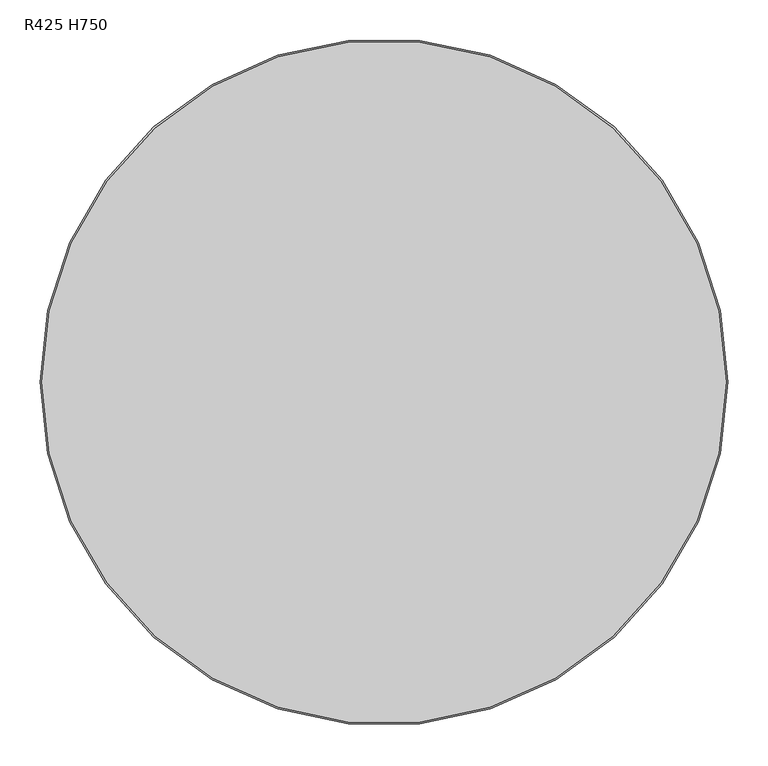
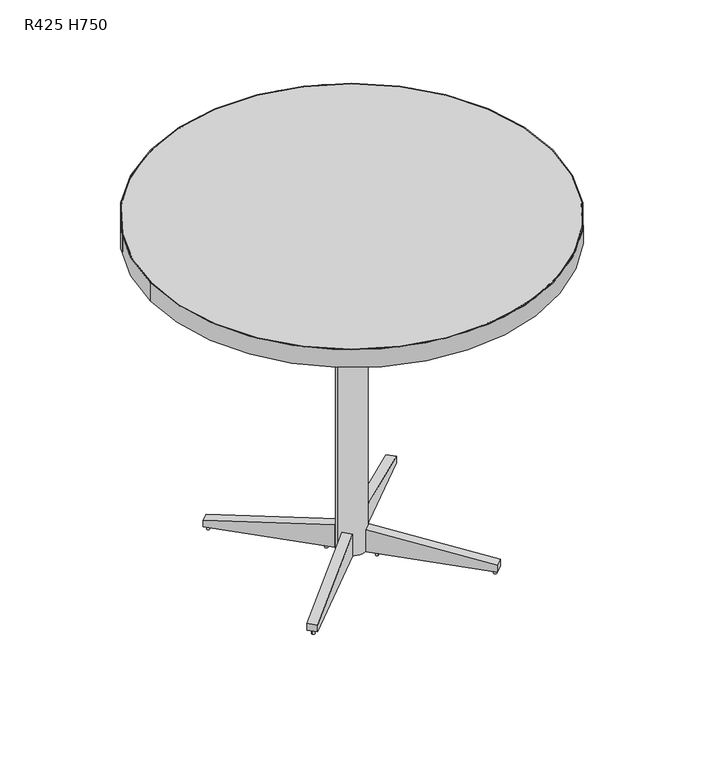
"""IFC4 building model written with IfcOpenShell, lengths in millimetres: furniture geometry, TN.RES.Table03 : R425 H750."""

import ifcopenshell
import ifcopenshell.guid

model = None  # the IFC model being written
_history = None  # IfcOwnerHistory: only IFC2X3 demands one
_inside = {}  # id of a spatial element -> (the spatial element, [elements in it])
_under = {}  # id of a project, library or spatial element -> (it, [spatial elements below it])
_declared = {}  # id of a project -> (the project, [libraries it declares])
_typed = {}  # id of a type object -> (the type object, [elements of that type])
_made_of = {}  # id of a material, layer set ... -> (it, [elements and type objects made of it])


def new_model(schema):
    """Start an empty IFC model of exactly this schema.

    Asked for "IFC4X3", IfcOpenShell would pick the latest addendum, in which some entities
    have other attributes; the version numbers below select the first issue.
    IFC2X3 requires an IfcOwnerHistory on every rooted entity: one is made here for all.
    """
    global model, _history
    if schema == "IFC4X3":
        model = ifcopenshell.file(schema_version=(4, 3, 0, 0))
    else:
        model = ifcopenshell.file(schema=schema)
    _inside.clear()
    _under.clear()
    _declared.clear()
    _typed.clear()
    _made_of.clear()
    _history = None
    if model.schema == "IFC2X3":
        org = make("IfcOrganization", Name="unknown")
        user = make(
            "IfcPersonAndOrganization",
            ThePerson=make("IfcPerson", FamilyName="unknown"),
            TheOrganization=org,
        )
        app = make(
            "IfcApplication",
            ApplicationDeveloper=org,
            Version="unknown",
            ApplicationFullName="unknown",
            ApplicationIdentifier="unknown",
        )
        _history = make(
            "IfcOwnerHistory",
            OwningUser=user,
            OwningApplication=app,
            ChangeAction="ADDED",
            CreationDate=0,
        )
    return model


def make(cls, **values):
    """One entity of the class cls with the attributes given. An attribute that is None is left unset."""
    return model.create_entity(
        cls, **{name: value for name, value in values.items() if value is not None}
    )


def rooted(cls, **values):
    """An entity with a GlobalId (a new one), such as an element, a storey or a relation."""
    return make(cls, GlobalId=ifcopenshell.guid.new(), OwnerHistory=_history, **values)


def si_unit(unit_type, name, prefix=None):
    """IfcSIUnit, for example si_unit("LENGTHUNIT", "METRE", prefix="MILLI")."""
    return make("IfcSIUnit", UnitType=unit_type, Prefix=prefix, Name=name)


def assignment(units):
    """IfcUnitAssignment: the units of a project."""
    return None if units is None else make("IfcUnitAssignment", Units=units)


def point(xyz):
    """IfcCartesianPoint."""
    return None if xyz is None else make("IfcCartesianPoint", Coordinates=xyz)


def direction(xyz):
    """IfcDirection."""
    return None if xyz is None else make("IfcDirection", DirectionRatios=xyz)


def frame(location, z_axis=None, x_axis=None):
    """IfcAxis2Placement3D, a coordinate frame: its origin and axes. An axis left out is left unset."""
    return make(
        "IfcAxis2Placement3D",
        Location=point(location),
        Axis=direction(z_axis),
        RefDirection=direction(x_axis),
    )


def frame_2d(location, x_axis=None):
    """IfcAxis2Placement2D, a coordinate frame in the plane: its origin and x axis."""
    return make(
        "IfcAxis2Placement2D", Location=point(location), RefDirection=direction(x_axis)
    )


def origin():
    """The frame at (0, 0, 0) with its axes left unset."""
    return frame((0.0, 0.0, 0.0))


def origin_with_axes():
    """The frame at (0, 0, 0) with the z axis (0, 0, 1) and the x axis (1, 0, 0) written out."""
    return frame((0.0, 0.0, 0.0), z_axis=(0.0, 0.0, 1.0), x_axis=(1.0, 0.0, 0.0))


def origin_2d():
    """The frame at (0, 0) in the plane with its x axis left unset."""
    return frame_2d((0.0, 0.0))


def place(relative_to, where):
    """IfcLocalPlacement: puts the frame where relative to a parent placement (None: the world)."""
    return make(
        "IfcLocalPlacement", PlacementRelTo=relative_to, RelativePlacement=where
    )


def context(
    kind, dimensions, precision=None, world=None, true_north=None, identifier=None
):
    """IfcGeometricRepresentationContext, for example the 3D "Model" context."""
    return make(
        "IfcGeometricRepresentationContext",
        ContextIdentifier=identifier,
        ContextType=kind,
        CoordinateSpaceDimension=dimensions,
        Precision=precision,
        WorldCoordinateSystem=world,
        TrueNorth=true_north,
    )


def project(units=None, contexts=None):
    """IfcProject with its units and contexts."""
    return rooted(
        "IfcProject",
        Name="project",
        RepresentationContexts=contexts,
        UnitsInContext=assignment(units),
    )


def spatial(cls, under=None, at=None, **own):
    """A site, building, storey or space (cls), placed at a placement, below another one or the project."""
    s = rooted(cls, ObjectPlacement=at, **own)
    if under is not None:
        _under.setdefault(under.id(), (under, []))[1].append(s)
    return s


def polyline(points):
    """IfcPolyline through the points."""
    return make("IfcPolyline", Points=[point(p) for p in points])


def circle_curve(where, radius):
    """IfcCircle in the frame where."""
    return make("IfcCircle", Position=where, Radius=radius)


def trimmed(basis, trim1, trim2, sense, master):
    """IfcTrimmedCurve: the piece of a basis curve between two trims."""
    return make(
        "IfcTrimmedCurve",
        BasisCurve=basis,
        Trim1=trim1,
        Trim2=trim2,
        SenseAgreement=sense,
        MasterRepresentation=master,
    )


def segment(curve, same_sense, transition):
    """IfcCompositeCurveSegment."""
    return make(
        "IfcCompositeCurveSegment",
        Transition=transition,
        SameSense=same_sense,
        ParentCurve=curve,
    )


def composite_curve(segments, self_intersect=None):
    """IfcCompositeCurve: segments joined end to end."""
    return make("IfcCompositeCurve", Segments=segments, SelfIntersect=self_intersect)


def outline(outer, holes=None, kind="AREA"):
    """IfcArbitraryClosedProfileDef: a profile drawn as a closed curve; with holes, ...WithVoids."""
    if holes is None:
        return make("IfcArbitraryClosedProfileDef", ProfileType=kind, OuterCurve=outer)
    return make(
        "IfcArbitraryProfileDefWithVoids",
        ProfileType=kind,
        OuterCurve=outer,
        InnerCurves=holes,
    )


def extrude(swept, where, along, depth):
    """IfcExtrudedAreaSolid: the profile swept, set in the frame where, extruded along a direction by depth."""
    return make(
        "IfcExtrudedAreaSolid",
        SweptArea=swept,
        Position=where,
        ExtrudedDirection=direction(along),
        Depth=depth,
    )


def shape(context_of_items, identifier, shape_type, items):
    """IfcShapeRepresentation: the items that make up one representation, for example the "Body"."""
    return make(
        "IfcShapeRepresentation",
        ContextOfItems=context_of_items,
        RepresentationIdentifier=identifier,
        RepresentationType=shape_type,
        Items=items,
    )


def source(mapping_origin, context_of_items, identifier, shape_type, items):
    """IfcRepresentationMap: a shape defined once, which mapped items show again and again."""
    return make(
        "IfcRepresentationMap",
        MappingOrigin=mapping_origin,
        MappedRepresentation=shape(context_of_items, identifier, shape_type, items),
    )


def transform(
    local_origin,
    x_axis=None,
    y_axis=None,
    z_axis=None,
    scale=None,
    scale2=None,
    scale3=None,
    uniform=True,
):
    """IfcCartesianTransformationOperator3D, or its non-uniform kind. x_axis, y_axis, z_axis: its Axis1, 2, 3."""
    if uniform:
        return make(
            "IfcCartesianTransformationOperator3D",
            Axis1=direction(x_axis),
            Axis2=direction(y_axis),
            LocalOrigin=point(local_origin),
            Scale=scale,
            Axis3=direction(z_axis),
        )
    return make(
        "IfcCartesianTransformationOperator3DnonUniform",
        Axis1=direction(x_axis),
        Axis2=direction(y_axis),
        LocalOrigin=point(local_origin),
        Scale=scale,
        Axis3=direction(z_axis),
        Scale2=scale2,
        Scale3=scale3,
    )


def mapped(mapping_source, mapping_target):
    """IfcMappedItem: shows the shape of a source again, moved by a transform."""
    return make(
        "IfcMappedItem", MappingSource=mapping_source, MappingTarget=mapping_target
    )


def made_of(thing, what):
    """Note that an element or type object is made of a material, layer set ...; save() writes the relation."""
    if what is not None:
        _made_of.setdefault(what.id(), (what, []))[1].append(thing)
    return thing


def element(
    cls,
    number,
    at=None,
    inside=None,
    cuts=None,
    type_object=None,
    material=None,
    context=None,
    identifier="Body",
    shape_type=None,
    held_by="IfcProductDefinitionShape",
    body=None,
    shapes=None,
    **own,
):
    """One element of the class cls, such as IfcWall. Its Tag is "e" and its number.

    at: its placement. inside: the storey or other place that contains it. cuts: it is an
    opening in that element (IfcRelVoidsElement). A single representation is given by context,
    identifier, shape_type and body (its items); several are given by shapes. held_by: the class
    of the entity that holds the representations. save() writes the other relations.
    """
    e = rooted(cls, Tag="e%d" % number, ObjectPlacement=at, **own)
    if body is not None:
        shapes = [shape(context, identifier, shape_type, body)]
    if shapes is not None:
        e.Representation = make(held_by, Representations=shapes)
    if inside is not None:
        _inside.setdefault(inside.id(), (inside, []))[1].append(e)
    if cuts is not None:
        rooted(
            "IfcRelVoidsElement", RelatingBuildingElement=cuts, RelatedOpeningElement=e
        )
    if type_object is not None:
        _typed.setdefault(type_object.id(), (type_object, []))[1].append(e)
    return made_of(e, material)


def aggregate(whole, parts):
    """IfcRelAggregates: a whole, such as a stair, and the parts it consists of."""
    return rooted("IfcRelAggregates", RelatingObject=whole, RelatedObjects=parts)


def save(model, path):
    """Write the relations noted so far, then the file.

    IfcRelAggregates (storeys below a building ...), IfcRelContainedInSpatialStructure (elements
    in a storey), IfcRelDefinesByType, IfcRelAssociatesMaterial and IfcRelDeclares: one each for
    every whole, place, type object, material and project.
    """
    for whole, parts in _under.values():
        aggregate(whole, parts)
    for where, things in _inside.values():
        rooted(
            "IfcRelContainedInSpatialStructure",
            RelatedElements=things,
            RelatingStructure=where,
        )
    for kind, things in _typed.values():
        rooted("IfcRelDefinesByType", RelatedObjects=things, RelatingType=kind)
    for what, things in _made_of.values():
        rooted("IfcRelAssociatesMaterial", RelatedObjects=things, RelatingMaterial=what)
    for by, libraries in _declared.values():
        rooted("IfcRelDeclares", RelatingContext=by, RelatedDefinitions=libraries)
    model.write(path)


def plane_surface(at):
    """IfcPlane: the flat surface through the origin of the frame at, square to its z axis."""
    return make("IfcPlane", Position=at)


def cylinder_surface(at, radius):
    """IfcCylindricalSurface: all points at the distance radius from the z axis of the frame at."""
    return make("IfcCylindricalSurface", Position=at, Radius=radius)


def advanced_brep(points, edges, surfaces, faces):
    """IfcAdvancedBrep: a solid bounded by faces that lie on surfaces and meet in shared edges.

    An edge is (start, end): straight between two places in points (the first is 0);
    or (start, end, curve); or (start, end, curve, False) where it runs against its curve.
    A face is (place in surfaces, loops), or (place, loops, False) where it looks against
    its surface's normal. A loop lists edges by number (the first is 1), with a minus sign
    where the edge is run from its end to its start. The first loop is the outer one.
    """
    corners = [point(p) for p in points]
    vertices = [make("IfcVertexPoint", VertexGeometry=c) for c in corners]
    made = []
    for start, end, *more in edges:
        made.append(
            make(
                "IfcEdgeCurve",
                EdgeStart=vertices[start],
                EdgeEnd=vertices[end],
                EdgeGeometry=more[0] if more else make("IfcPolyline", Points=[corners[start], corners[end]]),
                SameSense=more[1] if len(more) > 1 else True,
            )
        )
    hull = []
    for where, loops, *sense in faces:
        bounds = []
        for j, loop in enumerate(loops):
            ring = [make("IfcOrientedEdge", EdgeElement=made[abs(k) - 1], Orientation=k > 0) for k in loop]
            bounds.append(
                make(
                    "IfcFaceOuterBound" if j == 0 else "IfcFaceBound",
                    Bound=make("IfcEdgeLoop", EdgeList=ring),
                    Orientation=True,
                )
            )
        hull.append(make("IfcAdvancedFace", Bounds=bounds, FaceSurface=surfaces[where], SameSense=sense[0] if sense else True))
    return make("IfcAdvancedBrep", Outer=make("IfcClosedShell", CfsFaces=hull))


def r425_h750_a5844c7b(model_context):
    return source(origin(), model_context, "Body", "SolidModel", [
        extrude(outline(composite_curve([segment(trimmed(circle_curve(frame_2d((-193.2225314, 193.2225314)), 2.9948705), [point((-195.3402246, 195.3402246))], [point((-191.1048382, 191.1048382))], False, "CARTESIAN"), True, "CONTINUOUS"), segment(trimmed(circle_curve(frame_2d((-193.2225314, 193.2225314)), 2.9948705), [point((-191.1048382, 191.1048382))], [point((-195.3402246, 195.3402246))], False, "CARTESIAN"), True, "CONTINUOUS")], self_intersect=False)), origin_with_axes(), (0.0, 0.0, 1.0), 10.0),
        extrude(outline(composite_curve([segment(trimmed(circle_curve(frame_2d((-34.1235056, 34.1235056)), 2.9948705), [point((-36.2411988, 36.2411988))], [point((-32.0058124, 32.0058124))], False, "CARTESIAN"), True, "CONTINUOUS"), segment(trimmed(circle_curve(frame_2d((-34.1235056, 34.1235056)), 2.9948705), [point((-32.0058124, 32.0058124))], [point((-36.2411988, 36.2411988))], False, "CARTESIAN"), True, "CONTINUOUS")], self_intersect=False)), origin_with_axes(), (0.0, 0.0, 1.0), 10.0),
        extrude(outline(polyline([(0.0, 0.0), (252.4381112, 0.0), (254.5178289, -14.8551262), (6.9323922, -49.5170873), (0.0, 0.0)])), frame((-28.2842712, 14.1421356, 60.0), z_axis=(0.7071067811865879, 0.7071067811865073, 0.0), x_axis=(-0.700277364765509, 0.7002773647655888, -0.13864784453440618)), (0.0, 0.0, 1.0), 20.0),
        extrude(outline(composite_curve([segment(trimmed(circle_curve(frame_2d((193.2225314, 193.2225314)), 2.9948705), [point((191.1048382, 191.1048382))], [point((195.3402246, 195.3402246))], False, "CARTESIAN"), True, "CONTINUOUS"), segment(trimmed(circle_curve(frame_2d((193.2225314, 193.2225314)), 2.9948705), [point((195.3402246, 195.3402246))], [point((191.1048382, 191.1048382))], False, "CARTESIAN"), True, "CONTINUOUS")], self_intersect=False)), origin_with_axes(), (0.0, 0.0, 1.0), 10.0),
        extrude(outline(composite_curve([segment(trimmed(circle_curve(frame_2d((34.1235056, 34.1235056)), 2.9948705), [point((32.0058124, 32.0058124))], [point((36.2411988, 36.2411988))], False, "CARTESIAN"), True, "CONTINUOUS"), segment(trimmed(circle_curve(frame_2d((34.1235056, 34.1235056)), 2.9948705), [point((36.2411988, 36.2411988))], [point((32.0058124, 32.0058124))], False, "CARTESIAN"), True, "CONTINUOUS")], self_intersect=False)), origin_with_axes(), (0.0, 0.0, 1.0), 10.0),
        extrude(outline(polyline([(-60.0, 0.0), (-10.0, 0.0), (-10.0, -250.0), (-25.0, -250.0), (-60.0, 0.0)])), frame((28.2842712, 14.1421356, 0.0), z_axis=(-0.7071067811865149, 0.7071067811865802, 0.0), x_axis=(0.0, 0.0, -1.0)), (0.0, 0.0, 1.0), 20.0),
        extrude(outline(composite_curve([segment(trimmed(circle_curve(frame_2d((-193.2225314, -193.2225314)), 2.9948705), [point((-195.3402246, -195.3402246))], [point((-191.1048382, -191.1048382))], False, "CARTESIAN"), True, "CONTINUOUS"), segment(trimmed(circle_curve(frame_2d((-193.2225314, -193.2225314)), 2.9948705), [point((-191.1048382, -191.1048382))], [point((-195.3402246, -195.3402246))], False, "CARTESIAN"), True, "CONTINUOUS")], self_intersect=False)), origin_with_axes(), (0.0, 0.0, 1.0), 10.0),
        extrude(outline(composite_curve([segment(trimmed(circle_curve(frame_2d((-34.1235056, -34.1235056)), 2.9948705), [point((-36.2411988, -36.2411988))], [point((-32.0058124, -32.0058124))], False, "CARTESIAN"), True, "CONTINUOUS"), segment(trimmed(circle_curve(frame_2d((-34.1235056, -34.1235056)), 2.9948705), [point((-32.0058124, -32.0058124))], [point((-36.2411988, -36.2411988))], False, "CARTESIAN"), True, "CONTINUOUS")], self_intersect=False)), origin_with_axes(), (0.0, 0.0, 1.0), 10.0),
        extrude(outline(polyline([(0.0, 0.0), (252.4381112, 0.0), (254.5178289, -14.8551262), (6.9323922, -49.5170873), (0.0, 0.0)])), frame((-14.1421356, -28.2842712, 60.0), z_axis=(-0.7071067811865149, 0.7071067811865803, 0.0), x_axis=(-0.7002773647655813, -0.7002773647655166, -0.1386478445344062)), (0.0, 0.0, 1.0), 20.0),
        extrude(outline(composite_curve([segment(trimmed(circle_curve(frame_2d((193.2225314, -193.2225314)), 2.9948705), [point((195.3402246, -195.3402246))], [point((191.1048382, -191.1048382))], False, "CARTESIAN"), True, "CONTINUOUS"), segment(trimmed(circle_curve(frame_2d((193.2225314, -193.2225314)), 2.9948705), [point((191.1048382, -191.1048382))], [point((195.3402246, -195.3402246))], False, "CARTESIAN"), True, "CONTINUOUS")], self_intersect=False)), origin_with_axes(), (0.0, 0.0, 1.0), 10.0),
        extrude(outline(composite_curve([segment(trimmed(circle_curve(frame_2d((34.1235056, -34.1235056)), 2.9948705), [point((36.2411988, -36.2411988))], [point((32.0058124, -32.0058124))], False, "CARTESIAN"), True, "CONTINUOUS"), segment(trimmed(circle_curve(frame_2d((34.1235056, -34.1235056)), 2.9948705), [point((32.0058124, -32.0058124))], [point((36.2411988, -36.2411988))], False, "CARTESIAN"), True, "CONTINUOUS")], self_intersect=False)), origin_with_axes(), (0.0, 0.0, 1.0), 10.0),
        extrude(outline(polyline([(0.0, 0.0), (-6.9323922, -49.5170873), (-254.5178289, -14.8551262), (-252.4381112, 0.0), (0.0, 0.0)])), frame((14.1421356, -28.2842712, 60.0), z_axis=(0.7071067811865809, 0.7071067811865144, 0.0), x_axis=(-0.700277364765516, 0.7002773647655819, 0.1386478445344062)), (0.0, 0.0, 1.0), 20.0),
        extrude(outline(composite_curve([segment(trimmed(circle_curve(origin_2d(), 425.0), [point((-425.0, 0.0))], [point((425.0, 0.0))], False, "CARTESIAN"), True, "CONTINUOUS"), segment(trimmed(circle_curve(origin_2d(), 425.0), [point((425.0, 0.0))], [point((-425.0, 0.0))], False, "CARTESIAN"), True, "CONTINUOUS")], self_intersect=False)), frame((0.0, 0.0, 710.0), z_axis=(0.0, 0.0, 1.0), x_axis=(1.0, 0.0, 0.0)), (0.0, 0.0, 1.0), 40.0),
        extrude(outline(composite_curve([segment(trimmed(circle_curve(origin_2d(), 427.0), [point((-427.0, 0.0))], [point((427.0, 0.0))], False, "CARTESIAN"), True, "CONTINUOUS"), segment(trimmed(circle_curve(origin_2d(), 427.0), [point((427.0, 0.0))], [point((-427.0, 0.0))], False, "CARTESIAN"), True, "CONTINUOUS")], self_intersect=False), holes=[composite_curve([segment(trimmed(circle_curve(origin_2d(), 425.0), [point((425.0, 0.0))], [point((-425.0, 0.0))], True, "CARTESIAN"), True, "CONTINUOUS"), segment(trimmed(circle_curve(origin_2d(), 425.0), [point((-425.0, 0.0))], [point((425.0, 0.0))], True, "CARTESIAN"), True, "CONTINUOUS")], self_intersect=False)]), frame((0.0, 0.0, 710.0), z_axis=(0.0, 0.0, 1.0), x_axis=(1.0, 0.0, 0.0)), (0.0, 0.0, 1.0), 40.0),
        advanced_brep(
        [(30.0, 0.0, 10.0), (-30.0, 0.0, 10.0), (-30.0, 0.0, 705.0), (30.0, 0.0, 705.0), (0.0, 0.0, 10.0), (175.0, 0.0, 710.0), (-175.0, 0.0, 710.0), (0.0, 0.0, 710.0), (175.0, 0.0, 705.0), (-175.0, 0.0, 705.0)],
        [
            (0, 1, circle_curve(frame((0.0, 0.0, 10.0), z_axis=(0.0, 0.0, 1.0), x_axis=(-1.0, 0.0, 0.0)), 30.0)),
            (1, 2),
            (2, 3, circle_curve(frame((0.0, 0.0, 705.0), z_axis=(0.0, 0.0, -1.0), x_axis=(-1.0, 0.0, 0.0)), 30.0)),
            (3, 0),
            (1, 0, circle_curve(frame((0.0, 0.0, 10.0), z_axis=(0.0, 0.0, 1.0), x_axis=(-1.0, 0.0, 0.0)), 30.0)),
            (3, 2, circle_curve(frame((0.0, 0.0, 705.0), z_axis=(0.0, 0.0, -1.0), x_axis=(-1.0, 0.0, 0.0)), 30.0)),
            (4, 1),
            (0, 4),
            (5, 6, circle_curve(frame((0.0, 0.0, 710.0), z_axis=(0.0, 0.0, 1.0), x_axis=(-1.0, 0.0, 0.0)), 175.0)),
            (6, 7),
            (7, 5),
            (6, 5, circle_curve(frame((0.0, 0.0, 710.0), z_axis=(0.0, 0.0, 1.0), x_axis=(-1.0, 0.0, 0.0)), 175.0)),
            (8, 9, circle_curve(frame((0.0, 0.0, 705.0), z_axis=(0.0, 0.0, 1.0), x_axis=(-1.0, 0.0, 0.0)), 175.0)),
            (9, 6),
            (5, 8),
            (9, 8, circle_curve(frame((0.0, 0.0, 705.0), z_axis=(0.0, 0.0, 1.0), x_axis=(-1.0, 0.0, 0.0)), 175.0)),
            (2, 9),
            (8, 3),
        ],
        [
            cylinder_surface(frame((0.0, 0.0, 740.0), z_axis=(0.0, 0.0, -1.0), x_axis=(-1.0, 0.0, 0.0)), 30.0),
            plane_surface(frame((0.0, 0.0, 10.0), z_axis=(0.0, 0.0, -1.0), x_axis=(-1.0, 0.0, 0.0))),
            plane_surface(frame((0.0, 0.0, 710.0), z_axis=(0.0, 0.0, 1.0), x_axis=(-1.0, 0.0, 0.0))),
            cylinder_surface(frame((0.0, 0.0, 740.0), z_axis=(0.0, 0.0, -1.0), x_axis=(-1.0, 0.0, 0.0)), 175.0),
            plane_surface(frame((0.0, 0.0, 705.0), z_axis=(0.0, 0.0, -1.0), x_axis=(-1.0, 0.0, 0.0))),
        ],
        [
            (0, [[1, 2, 3, 4]]),
            (0, [[5, -4, 6, -2]]),
            (1, [[7, -1, 8]]),
            (1, [[-8, -5, -7]]),
            (2, [[9, 10, 11]]),
            (2, [[12, -11, -10]]),
            (3, [[13, 14, -9, 15]]),
            (3, [[16, -15, -12, -14]]),
            (4, [[-3, 17, -13, 18]]),
            (4, [[-6, -18, -16, -17]]),
        ],
    ),
    ])


if __name__ == "__main__":
    model = new_model("IFC4")
    model_context = context("Model", 3, world=origin())
    ifc_project = project(units=[si_unit("LENGTHUNIT", "METRE", prefix="MILLI")], contexts=[model_context])
    site = spatial("IfcSite", under=ifc_project)
    building = spatial("IfcBuilding", under=site)
    placement = place(None, origin())
    r425_h750_shape = r425_h750_a5844c7b(model_context)
    element("IfcFurniture", 1, ObjectType="TN.RES.Table03 : R425 H750", at=placement, inside=building, context=model_context, shape_type="MappedRepresentation", body=[
        mapped(r425_h750_shape, transform((0.0, 0.0, 0.0), x_axis=(1.0, 0.0, 0.0), y_axis=(0.0, 1.0, 0.0), z_axis=(0.0, 0.0, 1.0))),
    ])
    save(model, "model.ifc")
